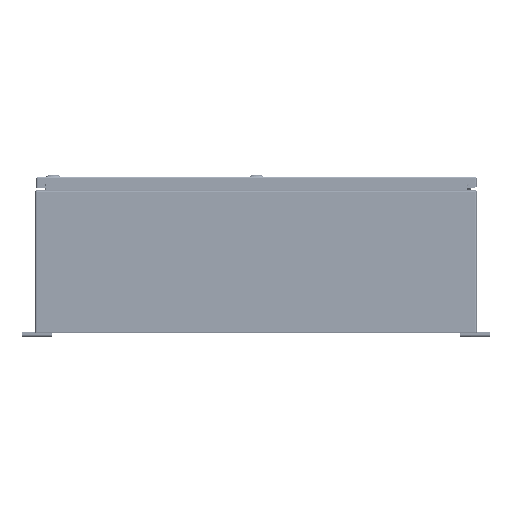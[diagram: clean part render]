
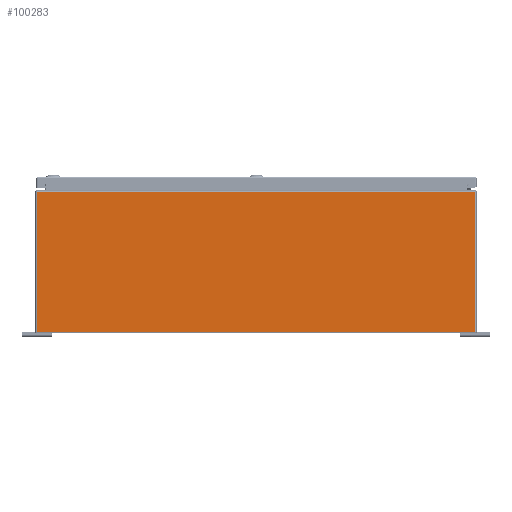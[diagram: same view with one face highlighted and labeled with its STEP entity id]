
A CAD part, left-side view. The second image highlights one B-rep face of the part: STEP entity #100283.
In plain terms, the highlighted planar face has unit normal (-1, 0, 0).
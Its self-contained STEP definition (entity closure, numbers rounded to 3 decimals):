
#5852=PLANE('',#107522);
#8475=LINE('',#143701,#16473);
#8476=LINE('',#143705,#16474);
#8477=LINE('',#143707,#16475);
#8478=LINE('',#143709,#16476);
#8479=LINE('',#143711,#16477);
#8480=LINE('',#143712,#16478);
#16473=VECTOR('',#117036,0.394);
#16474=VECTOR('',#117041,0.394);
#16475=VECTOR('',#117042,0.394);
#16476=VECTOR('',#117043,0.394);
#16477=VECTOR('',#117044,0.394);
#16478=VECTOR('',#117045,0.394);
#26068=FACE_OUTER_BOUND('',#32038,.T.);
#32038=EDGE_LOOP('',(#68306,#68307,#68308,#68309,#68310,#68311));
#42703=VERTEX_POINT('',#143685);
#42709=VERTEX_POINT('',#143700);
#42710=VERTEX_POINT('',#143704);
#42711=VERTEX_POINT('',#143706);
#42712=VERTEX_POINT('',#143708);
#42713=VERTEX_POINT('',#143710);
#52667=EDGE_CURVE('',#42703,#42709,#8475,.T.);
#52669=EDGE_CURVE('',#42710,#42703,#8476,.T.);
#52670=EDGE_CURVE('',#42710,#42711,#8477,.T.);
#52671=EDGE_CURVE('',#42712,#42711,#8478,.T.);
#52672=EDGE_CURVE('',#42713,#42712,#8479,.T.);
#52673=EDGE_CURVE('',#42713,#42709,#8480,.T.);
#68306=ORIENTED_EDGE('',*,*,#52669,.F.);
#68307=ORIENTED_EDGE('',*,*,#52670,.T.);
#68308=ORIENTED_EDGE('',*,*,#52671,.F.);
#68309=ORIENTED_EDGE('',*,*,#52672,.F.);
#68310=ORIENTED_EDGE('',*,*,#52673,.T.);
#68311=ORIENTED_EDGE('',*,*,#52667,.F.);
#100283=ADVANCED_FACE('',(#26068),#5852,.F.);
#107522=AXIS2_PLACEMENT_3D('',#143703,#117039,#117040);
#117036=DIRECTION('',(0.,0.,-1.));
#117039=DIRECTION('center_axis',(1.,0.,0.));
#117040=DIRECTION('ref_axis',(0.,0.,-1.));
#117041=DIRECTION('',(0.,-1.,0.));
#117042=DIRECTION('',(0.,1.,0.));
#117043=DIRECTION('',(0.,-1.,0.));
#117044=DIRECTION('',(0.,0.,1.));
#117045=DIRECTION('',(0.,-1.,0.));
#143685=CARTESIAN_POINT('',(-36.,-18.401,11.901));
#143700=CARTESIAN_POINT('',(-36.,-18.401,0.099));
#143701=CARTESIAN_POINT('',(-36.,-18.401,6.));
#143703=CARTESIAN_POINT('Origin',(-36.,0.,6.));
#143704=CARTESIAN_POINT('',(-36.,-17.626,11.901));
#143705=CARTESIAN_POINT('',(-36.,-9.225,11.901));
#143706=CARTESIAN_POINT('',(-36.,17.626,11.901));
#143707=CARTESIAN_POINT('',(-36.,9.205,11.901));
#143708=CARTESIAN_POINT('',(-36.,18.401,11.901));
#143709=CARTESIAN_POINT('',(-36.,-9.225,11.901));
#143710=CARTESIAN_POINT('',(-36.,18.401,0.099));
#143711=CARTESIAN_POINT('',(-36.,18.401,6.));
#143712=CARTESIAN_POINT('',(-36.,9.25,0.099));
